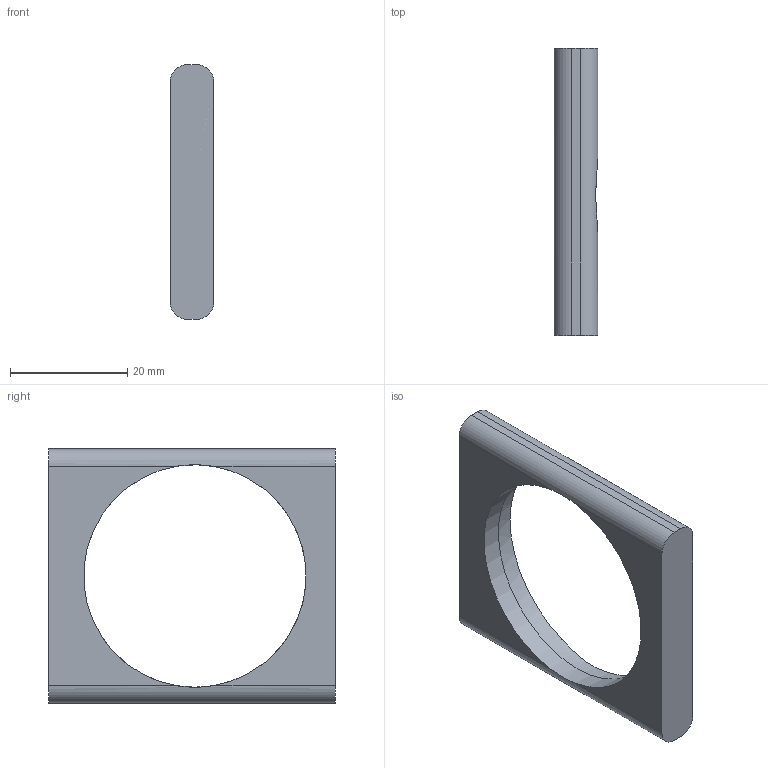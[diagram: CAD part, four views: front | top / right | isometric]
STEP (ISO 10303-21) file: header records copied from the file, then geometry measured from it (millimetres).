
FILE_DESCRIPTION(/* description */ (''),/* implementation_level */ '2;1');
FILE_NAME(/* name */ 'C:\Users\strothej\Documents\ActualDocuments\MicroscopeParts\TwoPhotonSystem\ScanningMechanics\current\Drawings\Collection_Front_XFilter_Mount_Base.stp',/* time_stamp */ '2018-02-19T18:50:46-08:00',/* author */ ('strothej'),/* organization */ (''),/* preprocessor_version */ 'ST-DEVELOPER v16.1',/* originating_system */ 'Autodesk Inventor 2016',/* authorisation */ '');
FILE_SCHEMA (('AUTOMOTIVE_DESIGN { 1 0 10303 214 3 1 1 }'));
Length unit declared in the file: millimetre
Products named in the file (1): Collection_Front_XFilter_Mount_Base
Bounding box: 7.5 x 49 x 43.5 mm (x, y, z)
Volume: 6464.8 mm3; surface area: 4121.3 mm2
Topology: 1 solids, 1 shells, 21 faces, 57 edges, 37 vertices
Faces by surface type: cylinder 9, plane 9, cone 3
Full cylindrical faces by diameter (mm): 1.567 x2, 3.5 x1, 38 x1, 40.4 x1
Entity records: 648 total; most frequent: CARTESIAN_POINT 144, DIRECTION 104, ORIENTED_EDGE 88, EDGE_CURVE 44, AXIS2_PLACEMENT_3D 42, VERTEX_POINT 32, EDGE_LOOP 30, FACE_OUTER_BOUND 21
